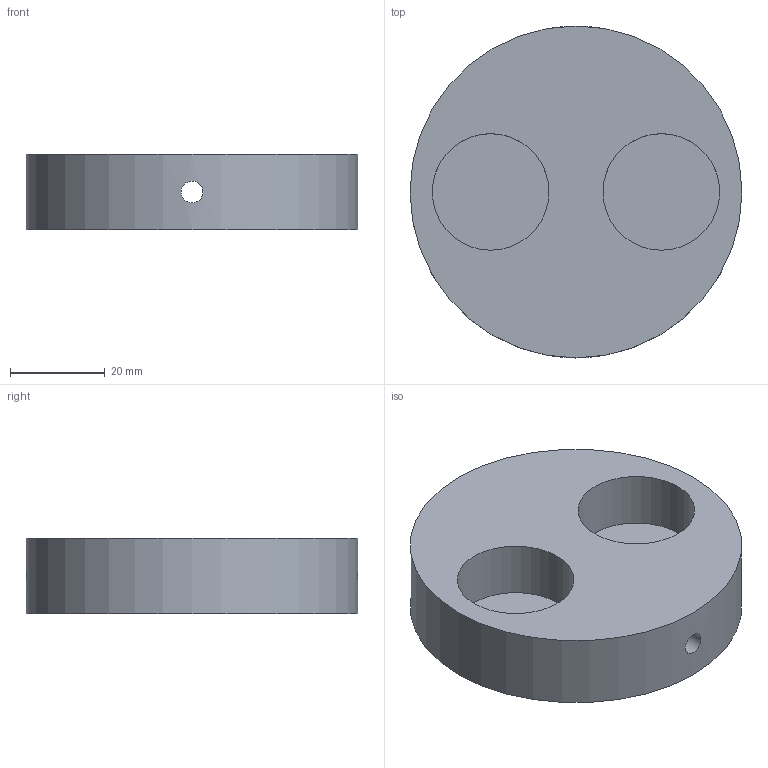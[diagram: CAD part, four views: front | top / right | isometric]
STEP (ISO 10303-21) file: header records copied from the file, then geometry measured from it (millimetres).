
FILE_DESCRIPTION(('Open CASCADE Model'),'2;1');
FILE_NAME('Open CASCADE Shape Model','2026-10-05T13:03:08',('Author'),( 'Open CASCADE'),'Open CASCADE STEP processor 7.9','Open CASCADE 7.9' ,'Unknown');
FILE_SCHEMA(('AUTOMOTIVE_DESIGN { 1 0 10303 214 1 1 1 1 }'));
Length unit declared in the file: millimetre
Products named in the file (1): Open CASCADE STEP translator 7.9 30
Bounding box: 70 x 70 x 16 mm (x, y, z)
Volume: 49006.2 mm3; surface area: 14047.6 mm2
Topology: 1 solids, 1 shells, 8 faces, 12 edges, 8 vertices
Faces by surface type: cylinder 4, plane 4
Full cylindrical faces by diameter (mm): 4.6 x1, 24.6 x2, 70 x1
Entity records: 682 total; most frequent: CARTESIAN_POINT 395, DIRECTION 54, ORIENTED_EDGE 24, PCURVE 24, DEFINITIONAL_REPRESENTATION 24, LINE 18, VECTOR 18, AXIS2_PLACEMENT_3D 15
